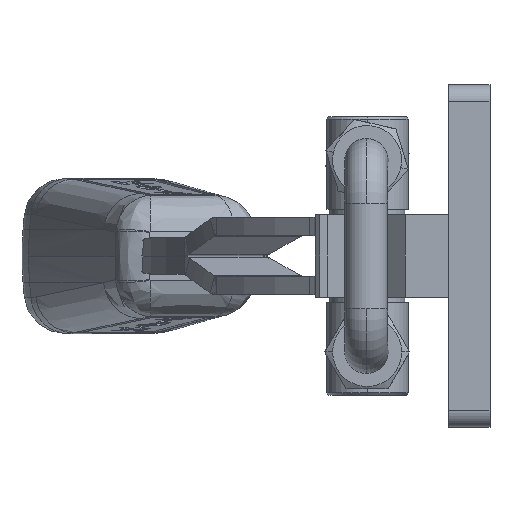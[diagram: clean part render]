
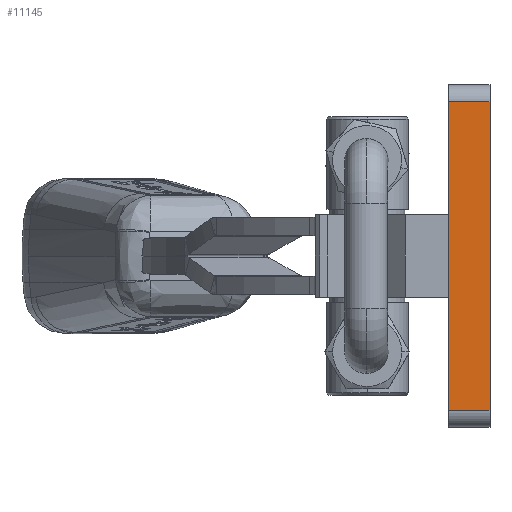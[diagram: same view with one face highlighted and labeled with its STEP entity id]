
A CAD part, left-side view. The second image highlights one B-rep face of the part: STEP entity #11145.
In plain terms, the highlighted planar face has unit normal (-1, 0, 0) as drawn and (1, 0, 0) by its records, which use the part's own axes.
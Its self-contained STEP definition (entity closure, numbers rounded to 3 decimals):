
#768 = LINE ( 'NONE', #12030, #5310 ) ;
#2194 = EDGE_CURVE ( 'NONE', #19680, #9705, #17952, .T. ) ;
#2644 = FACE_OUTER_BOUND ( 'NONE', #20288, .T. ) ;
#3229 = ORIENTED_EDGE ( 'NONE', *, *, #6644, .T. ) ;
#4759 = PLANE ( 'NONE',  #18331 ) ;
#4800 = VERTEX_POINT ( 'NONE', #23353 ) ;
#5310 = VECTOR ( 'NONE', #8021, 1000. ) ;
#6644 = EDGE_CURVE ( 'NONE', #4800, #18099, #768, .T. ) ;
#8021 = DIRECTION ( 'NONE',  ( 0., -1., 0. ) ) ;
#8899 = EDGE_CURVE ( 'NONE', #18099, #9705, #24808, .T. ) ;
#9705 = VERTEX_POINT ( 'NONE', #13361 ) ;
#10539 = CARTESIAN_POINT ( 'NONE',  ( 28.6, 9.525, -35.75 ) ) ;
#10855 = VECTOR ( 'NONE', #23838, 1000. ) ;
#11145 = ADVANCED_FACE ( 'NONE', ( #2644 ), #4759, .F. ) ;
#12030 = CARTESIAN_POINT ( 'NONE',  ( 28.6, 9.525, 35.75 ) ) ;
#12206 = VECTOR ( 'NONE', #15898, 1000. ) ;
#12291 = CARTESIAN_POINT ( 'NONE',  ( 28.6, 9.525, -35.75 ) ) ;
#12475 = DIRECTION ( 'NONE',  ( 0., 0., 1. ) ) ;
#13361 = CARTESIAN_POINT ( 'NONE',  ( 28.6, 0., -35.75 ) ) ;
#14387 = CARTESIAN_POINT ( 'NONE',  ( 28.6, 0., 35.75 ) ) ;
#15898 = DIRECTION ( 'NONE',  ( 0., -1., 0. ) ) ;
#16028 = LINE ( 'NONE', #12291, #10855 ) ;
#16547 = ORIENTED_EDGE ( 'NONE', *, *, #2194, .F. ) ;
#17756 = CARTESIAN_POINT ( 'NONE',  ( 28.6, 9.525, -35.75 ) ) ;
#17952 = LINE ( 'NONE', #17756, #12206 ) ;
#18099 = VERTEX_POINT ( 'NONE', #14387 ) ;
#18331 = AXIS2_PLACEMENT_3D ( 'NONE', #10539, #24046, #12475 ) ;
#18876 = DIRECTION ( 'NONE',  ( 0., 0., -1. ) ) ;
#19680 = VERTEX_POINT ( 'NONE', #23424 ) ;
#20201 = ORIENTED_EDGE ( 'NONE', *, *, #21541, .F. ) ;
#20288 = EDGE_LOOP ( 'NONE', ( #20888, #16547, #20201, #3229 ) ) ;
#20723 = CARTESIAN_POINT ( 'NONE',  ( 28.6, 0., -35.75 ) ) ;
#20888 = ORIENTED_EDGE ( 'NONE', *, *, #8899, .T. ) ;
#21541 = EDGE_CURVE ( 'NONE', #4800, #19680, #16028, .T. ) ;
#21555 = VECTOR ( 'NONE', #18876, 1000. ) ;
#23353 = CARTESIAN_POINT ( 'NONE',  ( 28.6, 9.525, 35.75 ) ) ;
#23424 = CARTESIAN_POINT ( 'NONE',  ( 28.6, 9.525, -35.75 ) ) ;
#23838 = DIRECTION ( 'NONE',  ( 0., 0., -1. ) ) ;
#24046 = DIRECTION ( 'NONE',  ( -1., 0., 0. ) ) ;
#24808 = LINE ( 'NONE', #20723, #21555 ) ;
